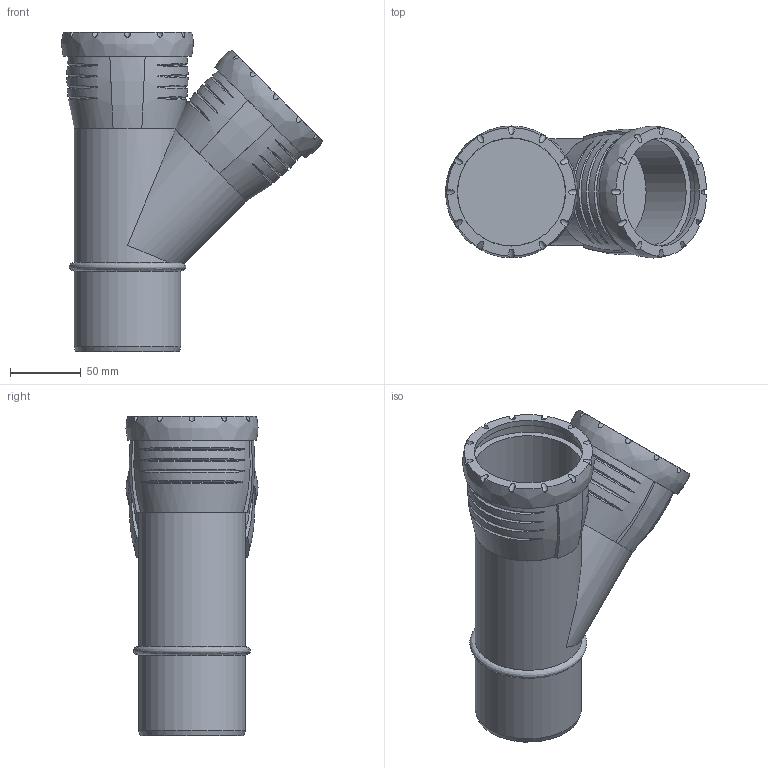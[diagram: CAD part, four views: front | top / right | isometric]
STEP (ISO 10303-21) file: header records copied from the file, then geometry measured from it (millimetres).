
FILE_DESCRIPTION(/* description */ (''),/* implementation_level */ '2;1');
FILE_NAME(/* name */ 'H:\Geberit-Teile\Export\Abzweig PP\stp\393333.stp',/* time_stamp */ '2017-02-13T13:16:26+01:00',/* author */ ('seihe2'),/* organization */ (''),/* preprocessor_version */ 'ST-DEVELOPER v15.2',/* originating_system */ 'Autodesk Inventor 2014',/* authorisation */ '');
FILE_SCHEMA (('AUTOMOTIVE_DESIGN { 1 0 10303 214 3 1 1 }'));
Length unit declared in the file: millimetre
Products named in the file (1): 393333
Bounding box: 183.91 x 92.99 x 224.7 mm (x, y, z)
Volume: 979097.4 mm3; surface area: 166846.1 mm2
Topology: 5 solids, 5 shells, 106 faces, 245 edges, 174 vertices
Faces by surface type: bspline 47, cylinder 38, plane 20, cone 1
Full cylindrical faces by diameter (mm): 58.903 x2, 67.6 x1, 75.2 x3, 75.9 x2, 76.2 x2, 85 x2
Entity records: 7754 total; most frequent: CARTESIAN_POINT 5554, ORIENTED_EDGE 460, DIRECTION 329, EDGE_CURVE 229, VERTEX_POINT 172, AXIS2_PLACEMENT_3D 164, EDGE_LOOP 149, B_SPLINE_CURVE_WITH_KNOTS 122
